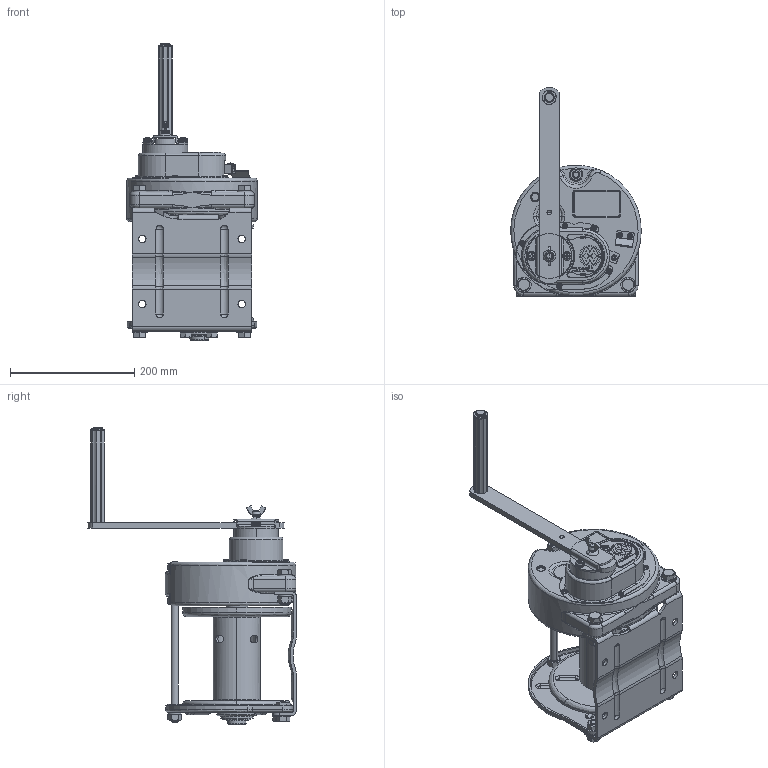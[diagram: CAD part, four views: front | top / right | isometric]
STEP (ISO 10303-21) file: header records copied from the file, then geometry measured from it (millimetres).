
FILE_DESCRIPTION( (''), '2;1');
FILE_NAME ('ST-5.stp','2024-01-09T16:15:58',(''),(''),'spGate 19.8.2 (****-****-****-****)','','');
FILE_SCHEMA (('AUTOMOTIVE_DESIGN'));
Length unit declared in the file: millimetre
Products named in the file (3): Assembly; ST-5-prt0; ST-5-prt1
Assembly tree (2 placements, depth 2):
  Assembly
    ST-5-prt0
    ST-5-prt1
Bounding box: 209.96 x 335.43 x 478.1 mm (x, y, z)
Volume: 3864223.7 mm3; surface area: 652567.7 mm2
Topology: 2 solids, 2 shells, 2603 faces, 6691 edges, 4186 vertices
Faces by surface type: plane 1221, cylinder 859, bspline 459, sphere 64
Entity records: 142792 total; most frequent: CARTESIAN_POINT 27880, ORIENTED_EDGE 13278, DIRECTION 12755, COLOUR_RGB 9244, PRESENTATION_STYLE_ASSIGNMENT 9244, STYLED_ITEM 9244, EDGE_CURVE 6639, DRAUGHTING_PRE_DEFINED_CURVE_FONT 6639
